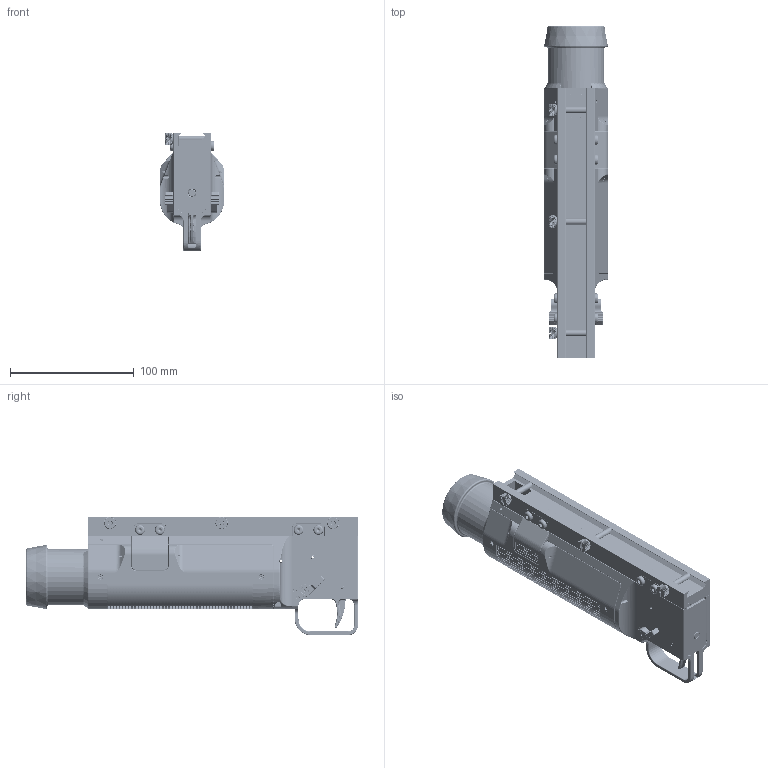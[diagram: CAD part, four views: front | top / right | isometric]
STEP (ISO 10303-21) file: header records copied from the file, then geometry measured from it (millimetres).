
FILE_DESCRIPTION(/* description */ ('Unknown'),/* implementation_level */ '2;1');
FILE_NAME(/* name */ 'Granatnik ris',/* time_stamp */ '2023-10-12T15:41:14+02:00',/* author */ ('Unknown'),/* organization */ ('Unknown'),/* preprocessor_version */ 'ST-DEVELOPER v16.7',/* originating_system */ 'Solid Edge',/* authorisation */ 'Unknown');
FILE_SCHEMA (('AUTOMOTIVE_DESIGN {1 0 10303 214 3 1 1}'));
Products named in the file (40): Granatnik ris; granatnik 這瞠; granatnik lufa; granatnik sprê¿yna iglicy; granatnik spust; granatnik korpus; granatnik bêben bezp; granatnik iglica; granatnik bêben skrzyde³ko; granatnik pazur wyci¹gu; granatnik pazur spr; granatnik ko³ek 2x30; granatnik spust oœ; granatnik bezp blokada; granatnik bezp blokada vspr; granatnik m3x10 ; granatnik bêben skrzyde³ko_odb; granatnik spust spr; granatnik blokada obudowy; granatnik blokada klapka; granatnik mechanizm; granatnik m5; granatnik mechanizm 2; granatnik obejma ris; granatnik ³o¿e wkrêt; granatnik 這瞠 przycisk spr; granatnik blokada rozlo ko³ek; granatnik blokada rozlo spr; granatnik 這瞠 przycisk; granatnik mechanizm opora; granatnik mechanizm spr; granatnik mechanizm ¿erdŸ; granatnik ko³ek 3x30; granatnik ³o¿e przycisk ko³ek; granatnik blokada rozlo; granatnik wyrzutnik; granatnik wyrzutnik spr; granatnik celownik tyl zacisk 2; granatnik obejma ris ko³ek; granatnik obejma ris 2
Assembly tree (62 placements, depth 2):
  Granatnik ris
    granatnik 這瞠
    granatnik lufa
    granatnik sprê¿yna iglicy
    granatnik spust
    granatnik korpus
    granatnik bêben bezp
    granatnik iglica
    granatnik bêben skrzyde³ko
    granatnik pazur wyci¹gu
    granatnik pazur spr
    granatnik ko³ek 2x30
    granatnik spust oœ
    granatnik bezp blokada
    granatnik bezp blokada vspr
    granatnik m3x10   x2
    granatnik bêben skrzyde³ko_odb
    granatnik spust spr
    granatnik blokada obudowy
    granatnik blokada klapka
    granatnik mechanizm
    granatnik m5  x8
    granatnik mechanizm 2
    granatnik obejma ris
    granatnik ³o¿e wkrêt  x6
    granatnik 這瞠 przycisk spr  x2
    granatnik blokada rozlo ko³ek
    granatnik blokada rozlo spr
    granatnik 這瞠 przycisk  x2
    granatnik mechanizm opora
    granatnik mechanizm spr  x2
    granatnik mechanizm ¿erdŸ  x2
    granatnik ko³ek 3x30  x2
    granatnik ³o¿e przycisk ko³ek  x2
    granatnik blokada rozlo
    granatnik wyrzutnik
    granatnik wyrzutnik spr
    granatnik celownik tyl zacisk 2  x3
    granatnik obejma ris ko³ek  x3
    granatnik obejma ris 2
Bounding box: 52 x 268 x 95.6 mm (x, y, z)
Volume: 403666.4 mm3; surface area: 224277.5 mm2
Topology: 62 solids, 64 shells, 19727 faces, 45725 edges, 27903 vertices
Faces by surface type: plane 9064, bspline 5723, cylinder 3672, cone 716, torus 503, sphere 49
Full cylindrical faces by diameter (mm): 0.5 x8, 1.5 x11, 2 x21, 2.5 x1, 2.818 x1, 3 x16, 3.2 x2, 4 x8, 4.5 x1, 5 x17, 5.5 x1, 5.8 x2, 6 x2, 8 x13, 10 x5, 40.3 x1, 46 x1
Entity records: 616923 total; most frequent: CARTESIAN_POINT 285784, ORIENTED_EDGE 67698, DIRECTION 60656, EDGE_CURVE 33849, VERTEX_POINT 21518, AXIS2_PLACEMENT_3D 20806, LINE 19044, VECTOR 19044
